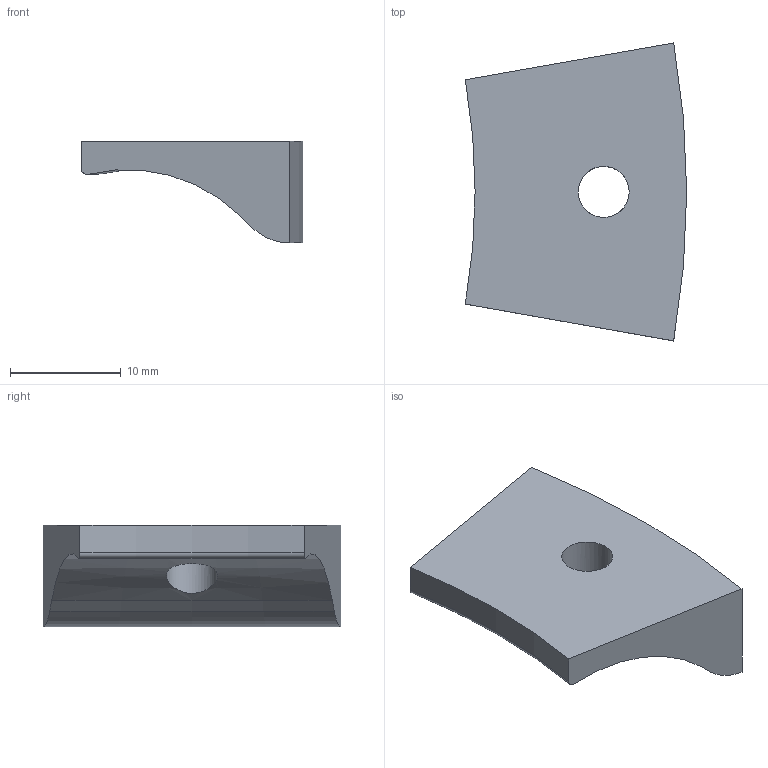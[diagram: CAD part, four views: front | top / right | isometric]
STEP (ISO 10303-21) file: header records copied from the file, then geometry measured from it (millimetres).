
FILE_DESCRIPTION(('FreeCAD Model'),'2;1');
FILE_NAME('Open CASCADE Shape Model','2023-07-23T09:52:29',(''),(''), 'Open CASCADE STEP processor 7.6','FreeCAD','Unknown');
FILE_SCHEMA(('AUTOMOTIVE_DESIGN { 1 0 10303 214 1 1 1 1 }'));
Length unit declared in the file: millimetre
Products named in the file (1): Kuppelklemme
Bounding box: 20.01 x 26.92 x 9.2 mm (x, y, z)
Volume: 2136.8 mm3; surface area: 1472.7 mm2
Topology: 1 solids, 1 shells, 10 faces, 25 edges, 17 vertices
Faces by surface type: cylinder 3, torus 3, plane 3, cone 1
Full cylindrical faces by diameter (mm): 4.6 x1
Entity records: 457 total; most frequent: CARTESIAN_POINT 175, DIRECTION 59, ORIENTED_EDGE 50, AXIS2_PLACEMENT_3D 25, EDGE_CURVE 25, VERTEX_POINT 17, CIRCLE 14, FACE_BOUND 12
